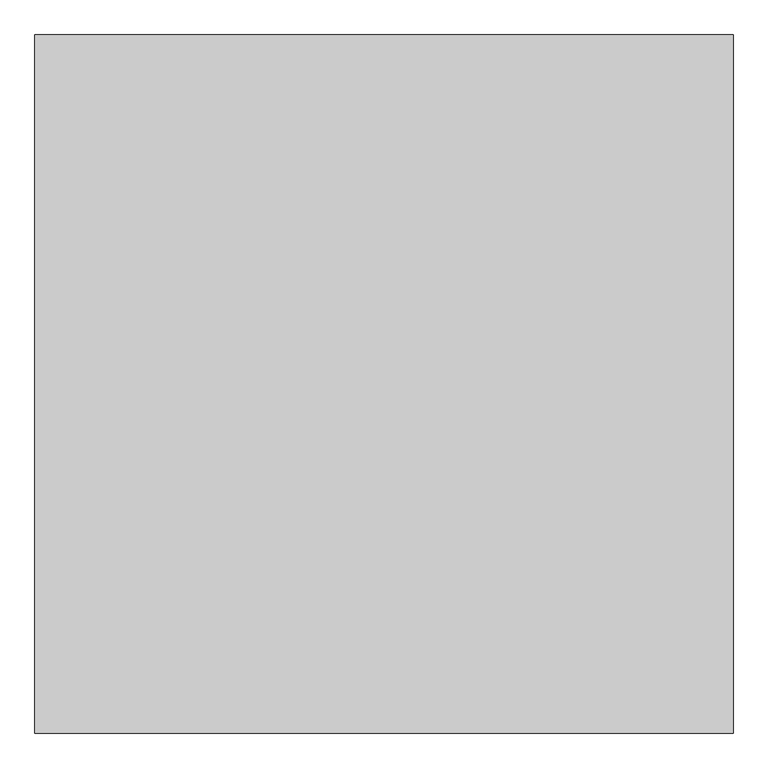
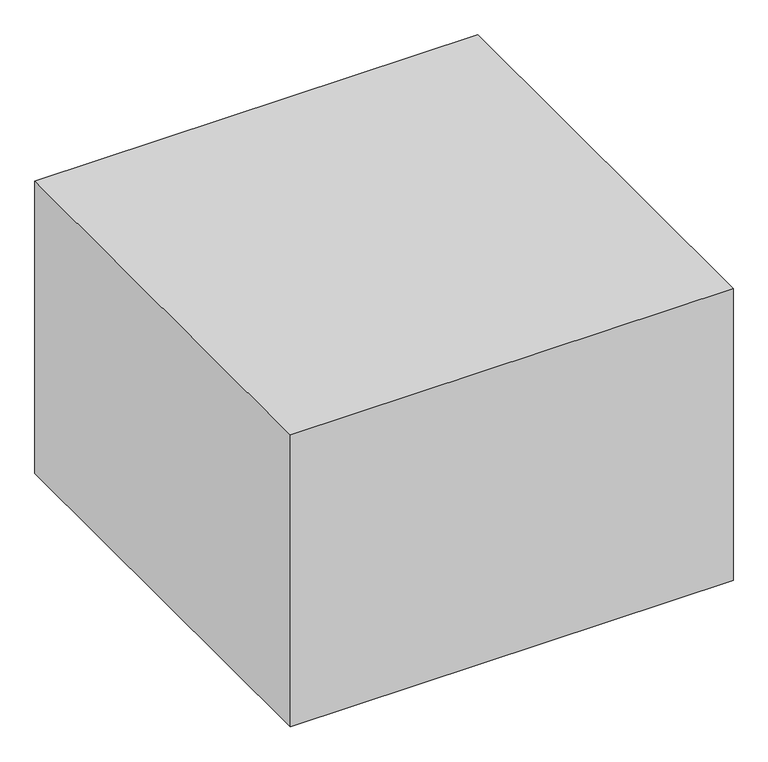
"""IFC4 building model written with IfcOpenShell, lengths in millimetres: proxy geometry, BIMHealth-Bed_Hospital_Corridor_Clearance-LOD2A-v1 : BIMHealth-Bed_Hospital_Corridor_Clearance-LOD2A-v1."""

from ifc_helpers import new_model, si_unit, origin, origin_with_axes, place, context, project, spatial, polyline, outline, extrude, source, transform, mapped, element, save


def generic_models_45d6de81(model_context):
    return source(origin(), model_context, "Body", "SweptSolid", [
        extrude(outline(polyline([(1075.0, -1075.0), (-1075.0, -1075.0), (-1075.0, 1075.0), (1075.0, 1075.0), (1075.0, -1075.0)])), origin_with_axes(), (0.0, 0.0, 1.0), 1500.0),
    ])


if __name__ == "__main__":
    model = new_model("IFC4")
    model_context = context("Model", 3, world=origin())
    ifc_project = project(units=[si_unit("LENGTHUNIT", "METRE", prefix="MILLI")], contexts=[model_context])
    site = spatial("IfcSite", under=ifc_project)
    building = spatial("IfcBuilding", under=site)
    placement = place(None, origin())
    generic_models_shape = generic_models_45d6de81(model_context)
    element("IfcBuildingElementProxy", 1, Name="BIMHealth-Bed_Hospital_Corridor_Clearance-LOD2A-v1 : BIMHealth-Bed_Hospital_Corridor_Clearance-LOD2A-v1", ObjectType="BIMHealth-Bed_Hospital_Corridor_Clearance-LOD2A-v1 : BIMHealth-Bed_Hospital_Corridor_Clearance-LOD2A-v1", at=placement, inside=building, context=model_context, shape_type="MappedRepresentation", body=[
        mapped(generic_models_shape, transform((0.0, 0.0, 0.0), x_axis=(1.0, 0.0, 0.0), y_axis=(0.0, 1.0, 0.0), z_axis=(0.0, 0.0, 1.0))),
    ])
    save(model, "model.ifc")
